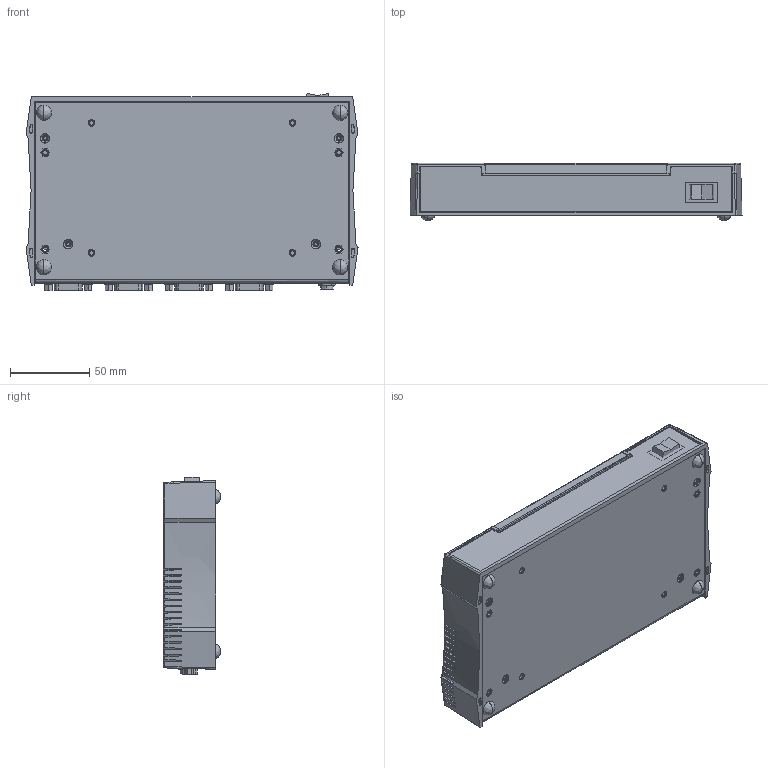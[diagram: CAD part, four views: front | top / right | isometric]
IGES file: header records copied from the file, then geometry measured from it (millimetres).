
Start section:  PTC IGES file: cu_usb_serial_4_port.igs
Global section: file name: cu_usb_serial_4_port.igs; native system: Pro/ENGINEER by Parametric Technology Corporation; preprocessor: 2010230; author: stgill; organization: Unknown; date: 20120228.120211; units: inch
Bounding box: 209.56 x 36.32 x 124.6 mm (x, y, z)
Surface area: 173578.8 mm2 (no closed solid volume)
Topology: 0 solids, 0 shells, 1745 faces, 10501 edges, 10481 vertices
Faces by surface type: bspline 1745
